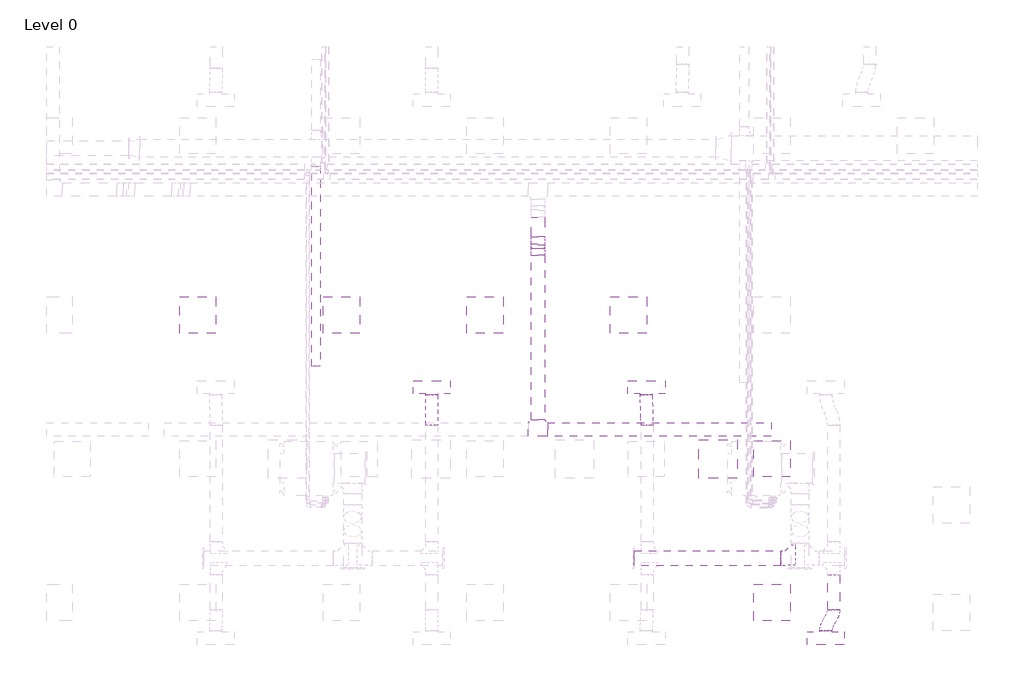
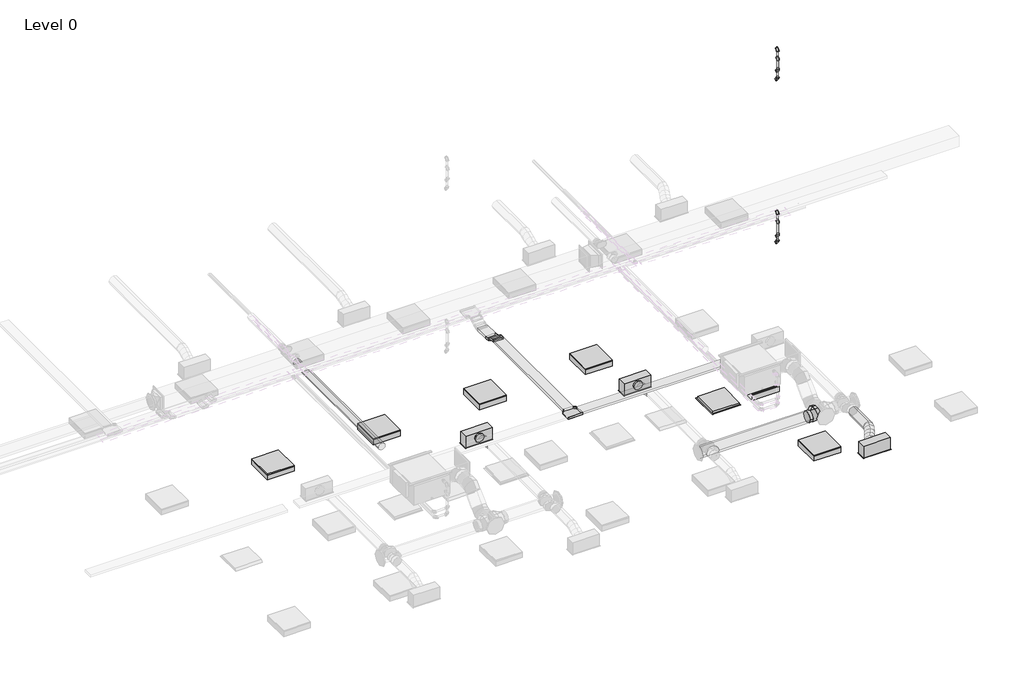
# One storey, part 10 of 34: 8 pipe fittings, 6 duct segments, 6 light fixtures, 4 air terminals, 4 cable carrier segments, 4 pipe segments, 3 cable carrier fittings, 1 duct fitting.
"""IFC4 building model written with IfcOpenShell, lengths in millimetres."""

from ifc_helpers import new_model, si_unit, point, frame, frame_2d, origin, place, context, project, spatial, polyline, circle_curve, ellipse_curve, trimmed, segment, composite_curve, outline, extrude, transform, mapped, element, save
from ifc_brep_helpers import plane_surface, cylinder_surface, advanced_brep
from components import return_grille_rectangular_hosted_standard_7b12617c, supply_diffuser_with_plenum_linear_slot_hosted_8c379eed, cable_tray_horizontal_tee_standard_d76b5e15, cable_tray_vertical_inside_bend_standard_9a66f55b, cable_tray_vertical_outside_bend_standard_4df2047e, dw144_round_shoe_branch_slip_joint1_standard_2_67b64720, troffer_light_2x2_parabolic_2_x2_2_lamp_120v_6a063ff3, elbow_threaded_gmi_standard_b4aa7741

model = new_model("IFC4")

# Units and contexts
model_context = context("Model", 3, world=origin())
ifc_project = project(units=[si_unit("LENGTHUNIT", "METRE", prefix="MILLI")], contexts=[model_context])

# Site, building, storey
site = spatial("IfcSite", under=ifc_project)
building = spatial("IfcBuilding", under=site)
storey = spatial("IfcBuildingStorey", under=building, Name="Level 0", Elevation=0.0)

# Air terminals
placement = place(None, origin())
return_grille_rectangular_hosted_standard_shape = return_grille_rectangular_hosted_standard_7b12617c(model_context)
element("IfcAirTerminal", 1, ObjectType="Return Grille - Rectangular - Hosted : Standard", at=placement, inside=storey, context=model_context, shape_type="MappedRepresentation", body=[
    mapped(return_grille_rectangular_hosted_standard_shape, transform((24762.2000027, 3963.2000004, 2800.0), x_axis=(1.0, 0.0, 0.0), y_axis=(0.0, -1.0, 0.0), z_axis=(0.0, 0.0, -1.0))),
])
supply_diffuser_with_plenum_linear_slot_hosted_shape = supply_diffuser_with_plenum_linear_slot_hosted_8c379eed(model_context)
element("IfcAirTerminal", 2, ObjectType="Supply Diffuser with Plenum - Linear Slot - Hosted : 24\" x 8\"-200 In Inlet  4-Slot", at=placement, inside=storey, context=model_context, shape_type="MappedRepresentation", body=[
    mapped(supply_diffuser_with_plenum_linear_slot_hosted_shape, transform((26562.2000027, 963.2000004, 2800.0), x_axis=(1.0, 0.0, 0.0), y_axis=(0.0, -1.0, 0.0), z_axis=(0.0, 0.0, -1.0))),
])
element("IfcAirTerminal", 3, ObjectType="Supply Diffuser with Plenum - Linear Slot - Hosted : 24\" x 8\"-200 In Inlet  4-Slot", at=placement, inside=storey, context=model_context, shape_type="MappedRepresentation", body=[
    mapped(supply_diffuser_with_plenum_linear_slot_hosted_shape, transform((19973.9000022, 5163.2000004, 2800.0), x_axis=(-1.0, 0.0, 0.0), y_axis=(0.0, 1.0, 0.0), z_axis=(0.0, 0.0, -1.0))),
])
element("IfcAirTerminal", 4, ObjectType="Supply Diffuser with Plenum - Linear Slot - Hosted : 24\" x 8\"-200 In Inlet  4-Slot", at=placement, inside=storey, context=model_context, shape_type="MappedRepresentation", body=[
    mapped(supply_diffuser_with_plenum_linear_slot_hosted_shape, transform((23562.2000027, 5163.2000004, 2800.0), x_axis=(-1.0, 0.0, 0.0), y_axis=(0.0, 1.0, 0.0), z_axis=(0.0, 0.0, -1.0))),
])

# Cable carrier fittings
cable_tray_horizontal_tee_standard_shape = cable_tray_horizontal_tee_standard_d76b5e15(model_context)
element("IfcCableCarrierFitting", 5, ObjectType="Cable Tray Horizontal Tee : Standard", at=placement, inside=storey, context=model_context, shape_type="MappedRepresentation", body=[
    mapped(cable_tray_horizontal_tee_standard_shape, transform((21747.5028601, 4459.9103775, 3275.0), x_axis=(-1.0, 0.0, 0.0), y_axis=(0.0, -1.0, 0.0), z_axis=(0.0, 0.0, 1.0))),
])
cable_tray_vertical_inside_bend_standard_shape = cable_tray_vertical_inside_bend_standard_9a66f55b(model_context)
element("IfcCableCarrierFitting", 6, ObjectType="Cable Tray Vertical Inside Bend : Standard", at=placement, inside=storey, context=model_context, shape_type="MappedRepresentation", body=[
    mapped(cable_tray_vertical_inside_bend_standard_shape, transform((21747.5028601, 7610.4627278, 3175.0), x_axis=(0.0, 0.8660254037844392, -0.49999999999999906), y_axis=(0.0, 0.49999999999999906, 0.8660254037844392), z_axis=(1.0, 0.0, 0.0))),
])
cable_tray_vertical_outside_bend_standard_shape = cable_tray_vertical_outside_bend_standard_4df2047e(model_context)
element("IfcCableCarrierFitting", 7, ObjectType="Cable Tray Vertical Outside Bend : Standard", at=placement, inside=storey, context=model_context, shape_type="MappedRepresentation", body=[
    mapped(cable_tray_vertical_outside_bend_standard_shape, transform((21747.5028601, 7437.257647, 3275.0), x_axis=(0.0, -0.8660254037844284, 0.5000000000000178), y_axis=(0.0, -0.5000000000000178, -0.8660254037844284), z_axis=(1.0, 0.0, 0.0))),
])

# Cable carrier segments
element("IfcCableCarrierSegment", 8, ObjectType="Perforated Cable Tray", at=placement, inside=storey, context=model_context, shape_type="SweptSolid", body=[
    extrude(outline(polyline([(21910.0028601, 4347.4103775), (21910.0028601, 4572.4103775), (25647.5028601, 4572.4103775), (25647.5028601, 4347.4103775), (21910.0028601, 4347.4103775)])), frame((0.0, 0.0, 3250.0), z_axis=(0.0, 0.0, 1.0), x_axis=(1.0, 0.0, 0.0)), (0.0, 0.0, 1.0), 50.0),
])
element("IfcCableCarrierSegment", 9, ObjectType="Perforated Cable Tray", at=placement, inside=storey, context=model_context, shape_type="SweptSolid", body=[
    extrude(outline(polyline([(21635.0028601, 7370.2703489), (21860.0028601, 7370.2703489), (21860.0028601, 4622.4103775), (21635.0028601, 4622.4103775), (21635.0028601, 7370.2703489)])), frame((0.0, 0.0, 3250.0), z_axis=(0.0, 0.0, 1.0), x_axis=(1.0, 0.0, 0.0)), (0.0, 0.0, 1.0), 50.0),
])
element("IfcCableCarrierSegment", 10, ObjectType="Perforated Cable Tray", at=placement, inside=storey, context=model_context, shape_type="SweptSolid", body=[
    extrude(outline(polyline([(21635.0028601, 8002.7307005), (21860.0028601, 8002.7307005), (21860.0028601, 7677.4500259), (21635.0028601, 7677.4500259), (21635.0028601, 8002.7307005)])), frame((0.0, 0.0, 3150.0), z_axis=(0.0, 0.0, 1.0), x_axis=(1.0, 0.0, 0.0)), (0.0, 0.0, 1.0), 50.0),
])
element("IfcCableCarrierSegment", 11, ObjectType="Perforated Cable Tray", at=placement, inside=storey, context=model_context, shape_type="SweptSolid", body=[
    extrude(outline(polyline([(0.0, -225.0), (0.0, 0.0), (66.0254038, 0.0), (66.0254038, -225.0), (0.0, -225.0)])), frame((21860.0028601, 7539.9500259, 3186.843014), z_axis=(0.0, 0.5000000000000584, 0.866025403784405), x_axis=(0.0, -0.866025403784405, 0.5000000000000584)), (0.0, 0.0, 1.0), 50.0),
])

# Duct fitting
dw144_round_shoe_branch_slip_joint1_standard_2_shape = dw144_round_shoe_branch_slip_joint1_standard_2_67b64720(model_context)
element("IfcDuctFitting", 12, ObjectType="DW144 Round Shoe Branch - Slip Joint1 : Standard 2", at=placement, inside=storey, context=model_context, shape_type="MappedRepresentation", body=[
    mapped(dw144_round_shoe_branch_slip_joint1_standard_2_shape, transform((25981.4561025, 2306.5018192, 3072.2088531), x_axis=(-1.0, 0.0, 0.0), y_axis=(0.0, -1.0, 0.0), z_axis=(0.0, 0.0, 1.0))),
])

# Duct segments
element("IfcDuctSegment", 13, ObjectType="DW144 Segmented Bend / Shoe Branch", at=placement, inside=storey, context=model_context, shape_type="SweptSolid", body=[
    extrude(outline(composite_curve([segment(trimmed(circle_curve(frame_2d((2306.5018192, 3072.2088531)), 125.0), [point((2431.5018192, 3072.2088531))], [point((2306.5018192, 2947.2088531))], False, "CARTESIAN"), True, "CONTINUOUS"), segment(trimmed(circle_curve(frame_2d((2306.5018192, 3072.2088531)), 125.0), [point((2306.5018192, 2947.2088531))], [point((2181.5018192, 3072.2088531))], False, "CARTESIAN"), True, "CONTINUOUS"), segment(trimmed(circle_curve(frame_2d((2306.5018192, 3072.2088531)), 125.0), [point((2181.5018192, 3072.2088531))], [point((2306.5018192, 3197.2088531))], False, "CARTESIAN"), True, "CONTINUOUS"), segment(trimmed(circle_curve(frame_2d((2306.5018192, 3072.2088531)), 125.0), [point((2306.5018192, 3197.2088531))], [point((2431.5018192, 3072.2088531))], False, "CARTESIAN"), True, "CONTINUOUS")], self_intersect=False)), frame((23361.4561025, 0.0, 0.0), z_axis=(1.0, 0.0, 0.0), x_axis=(0.0, 1.0, 0.0)), (0.0, 0.0, 1.0), 2445.0),
])
element("IfcDuctSegment", 14, ObjectType="DW144 Segmented Bend / Shoe Branch", at=placement, inside=storey, context=model_context, shape_type="SweptSolid", body=[
    extrude(outline(composite_curve([segment(trimmed(circle_curve(frame_2d((3072.2088531, 26693.9000022)), 100.0), [point((3072.2088531, 26593.9000022))], [point((2972.2088531, 26693.9000022))], False, "CARTESIAN"), True, "CONTINUOUS"), segment(trimmed(circle_curve(frame_2d((3072.2088531, 26693.9000022)), 100.0), [point((2972.2088531, 26693.9000022))], [point((3072.2088531, 26793.9000022))], False, "CARTESIAN"), True, "CONTINUOUS"), segment(trimmed(circle_curve(frame_2d((3072.2088531, 26693.9000022)), 100.0), [point((3072.2088531, 26793.9000022))], [point((3172.2088531, 26693.9000022))], False, "CARTESIAN"), True, "CONTINUOUS"), segment(trimmed(circle_curve(frame_2d((3072.2088531, 26693.9000022)), 100.0), [point((3172.2088531, 26693.9000022))], [point((3072.2088531, 26593.9000022))], False, "CARTESIAN"), True, "CONTINUOUS")], self_intersect=False)), frame((0.0, 1441.5018192, 0.0), z_axis=(0.0, 1.0, 0.0), x_axis=(0.0, 0.0, 1.0)), (0.0, 0.0, 1.0), 590.0),
])
element("IfcDuctSegment", 15, ObjectType="DW144 Segmented Bend / Shoe Branch", at=placement, inside=storey, context=model_context, shape_type="SweptSolid", body=[
    extrude(outline(composite_curve([segment(trimmed(circle_curve(frame_2d((3135.0, 18039.0080407)), 75.0), [point((3135.0, 17964.0080407))], [point((3060.0, 18039.0080407))], False, "CARTESIAN"), True, "CONTINUOUS"), segment(trimmed(circle_curve(frame_2d((3135.0, 18039.0080407)), 75.0), [point((3060.0, 18039.0080407))], [point((3135.0, 18114.0080407))], False, "CARTESIAN"), True, "CONTINUOUS"), segment(trimmed(circle_curve(frame_2d((3135.0, 18039.0080407)), 75.0), [point((3135.0, 18114.0080407))], [point((3210.0, 18039.0080407))], False, "CARTESIAN"), True, "CONTINUOUS"), segment(trimmed(circle_curve(frame_2d((3135.0, 18039.0080407)), 75.0), [point((3210.0, 18039.0080407))], [point((3135.0, 17964.0080407))], False, "CARTESIAN"), True, "CONTINUOUS")], self_intersect=False)), frame((0.0, 5510.2561435, 0.0), z_axis=(0.0, 1.0, 0.0), x_axis=(0.0, 0.0, 1.0)), (0.0, 0.0, 1.0), 3349.1601689),
])
element("IfcDuctSegment", 16, ObjectType="Flex - Round", at=placement, inside=storey, context=model_context, shape_type="AdvancedBrep", body=[
    advanced_brep(
    [(19873.9000022, 4531.5018192, 3072.2088531), (19973.9000022, 4531.5018192, 2972.2088531), (20073.9000022, 4531.5018192, 3072.2088531), (19973.9000022, 4531.5018192, 3172.2088531), (19873.9000022, 4545.8487649, 3072.2088531), (19973.9000022, 4537.7308336, 2972.2088531), (20073.9000022, 4545.8487649, 3072.2088531), (19973.9000022, 4553.9666963, 3172.2088531), (19873.9000022, 5034.3000004, 2954.4), (19973.9000022, 5034.3000004, 3054.4), (20073.9000022, 5034.3000004, 2954.4), (19973.9000022, 5034.3000004, 2854.4), (19873.9000022, 4658.4779853, 3053.8012198), (19973.9000022, 4634.8007072, 2956.3441723), (20073.9000022, 4658.4779853, 3053.8012198), (19973.9000022, 4682.1552634, 3151.2582674), (19873.9000022, 4782.9009098, 3013.3044266), (19973.9000022, 4751.9512855, 2918.21436), (20073.9000022, 4782.9009098, 3013.3044266), (19973.9000022, 4813.8505341, 3108.3944931), (19873.9000022, 4907.3238344, 2972.8076333), (19973.9000022, 4883.6465563, 2875.3505857), (20073.9000022, 4907.3238344, 2972.8076333), (19973.9000022, 4931.0011125, 3070.2646809), (19873.9000022, 5019.9530547, 2954.4), (19973.9000022, 5011.8351234, 2854.4), (20073.9000022, 5019.9530547, 2954.4), (19973.9000022, 5028.070986, 3054.4)],
    [
        (0, 1, circle_curve(frame((19973.9000022, 4531.5018192, 3072.2088531), z_axis=(0.0, -1.0, 0.0), x_axis=(-1.0, 0.0, 0.0)), 100.0)),
        (1, 2, circle_curve(frame((19973.9000022, 4531.5018192, 3072.2088531), z_axis=(0.0, -1.0, 0.0), x_axis=(-1.0, 0.0, 0.0)), 100.0)),
        (2, 3, circle_curve(frame((19973.9000022, 4531.5018192, 3072.2088531), z_axis=(0.0, -1.0, 0.0), x_axis=(-1.0, 0.0, 0.0)), 100.0)),
        (3, 0, circle_curve(frame((19973.9000022, 4531.5018192, 3072.2088531), z_axis=(0.0, -1.0, 0.0), x_axis=(-1.0, 0.0, 0.0)), 100.0)),
        (0, 4),
        (4, 5, ellipse_curve(frame((19973.9000022, 4545.8487649, 3072.2088531), z_axis=(0.0, -0.9967211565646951, 0.08091313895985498), x_axis=(0.0, -0.08091313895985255, -0.9967211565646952)), 100.328963, 100.0)),
        (5, 1),
        (5, 6, ellipse_curve(frame((19973.9000022, 4545.8487649, 3072.2088531), z_axis=(0.0, -0.9967211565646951, 0.08091313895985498), x_axis=(0.0, -0.08091313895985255, -0.9967211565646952)), 100.328963, 100.0)),
        (6, 2),
        (6, 7, ellipse_curve(frame((19973.9000022, 4545.8487649, 3072.2088531), z_axis=(0.0, -0.9967211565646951, 0.08091313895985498), x_axis=(0.0, -0.08091313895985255, -0.9967211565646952)), 100.328963, 100.0)),
        (7, 3),
        (7, 4, ellipse_curve(frame((19973.9000022, 4545.8487649, 3072.2088531), z_axis=(0.0, -0.9967211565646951, 0.08091313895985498), x_axis=(0.0, -0.08091313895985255, -0.9967211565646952)), 100.328963, 100.0)),
        (8, 9, circle_curve(frame((19973.9000022, 5034.3000004, 2954.4), z_axis=(0.0, 1.0, 0.0), x_axis=(-1.0, 0.0, 0.0)), 100.0)),
        (9, 10, circle_curve(frame((19973.9000022, 5034.3000004, 2954.4), z_axis=(0.0, 1.0, 0.0), x_axis=(-1.0, 0.0, 0.0)), 100.0)),
        (10, 11, circle_curve(frame((19973.9000022, 5034.3000004, 2954.4), z_axis=(0.0, 1.0, 0.0), x_axis=(-1.0, 0.0, 0.0)), 100.0)),
        (11, 8, circle_curve(frame((19973.9000022, 5034.3000004, 2954.4), z_axis=(0.0, 1.0, 0.0), x_axis=(-1.0, 0.0, 0.0)), 100.0)),
        (4, 12),
        (12, 13, ellipse_curve(frame((19973.9000022, 4658.4779853, 3053.8012198), z_axis=(0.0, -0.9717328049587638, 0.23608336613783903), x_axis=(0.0, -0.23608336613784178, -0.9717328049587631)), 100.2920217, 100.0)),
        (13, 5),
        (13, 14, ellipse_curve(frame((19973.9000022, 4658.4779853, 3053.8012198), z_axis=(0.0, -0.9717328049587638, 0.23608336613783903), x_axis=(0.0, -0.23608336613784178, -0.9717328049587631)), 100.2920217, 100.0)),
        (14, 6),
        (14, 15, ellipse_curve(frame((19973.9000022, 4658.4779853, 3053.8012198), z_axis=(0.0, -0.9717328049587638, 0.23608336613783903), x_axis=(0.0, -0.23608336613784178, -0.9717328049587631)), 100.2920217, 100.0)),
        (15, 7),
        (15, 12, ellipse_curve(frame((19973.9000022, 4658.4779853, 3053.8012198), z_axis=(0.0, -0.9717328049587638, 0.23608336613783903), x_axis=(0.0, -0.23608336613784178, -0.9717328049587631)), 100.2920217, 100.0)),
        (12, 16),
        (16, 17, circle_curve(frame((19973.9000022, 4782.9009098, 3013.3044266), z_axis=(0.0, -0.9509006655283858, 0.3094962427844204), x_axis=(-1.0, 0.0, 0.0)), 100.0)),
        (17, 13),
        (17, 18, circle_curve(frame((19973.9000022, 4782.9009098, 3013.3044266), z_axis=(0.0, -0.9509006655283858, 0.3094962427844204), x_axis=(-1.0, 0.0, 0.0)), 100.0)),
        (18, 14),
        (18, 19, circle_curve(frame((19973.9000022, 4782.9009098, 3013.3044266), z_axis=(0.0, -0.9509006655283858, 0.3094962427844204), x_axis=(-1.0, 0.0, 0.0)), 100.0)),
        (19, 15),
        (19, 16, circle_curve(frame((19973.9000022, 4782.9009098, 3013.3044266), z_axis=(0.0, -0.9509006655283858, 0.3094962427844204), x_axis=(-1.0, 0.0, 0.0)), 100.0)),
        (16, 20),
        (20, 21, ellipse_curve(frame((19973.9000022, 4907.3238344, 2972.8076333), z_axis=(0.0, -0.9717328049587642, 0.236083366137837), x_axis=(0.0, 0.23608336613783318, 0.9717328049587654)), 100.2920217, 100.0)),
        (21, 17),
        (21, 22, ellipse_curve(frame((19973.9000022, 4907.3238344, 2972.8076333), z_axis=(0.0, -0.9717328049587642, 0.236083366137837), x_axis=(0.0, 0.23608336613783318, 0.9717328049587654)), 100.2920217, 100.0)),
        (22, 18),
        (22, 23, ellipse_curve(frame((19973.9000022, 4907.3238344, 2972.8076333), z_axis=(0.0, -0.9717328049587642, 0.236083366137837), x_axis=(0.0, 0.23608336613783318, 0.9717328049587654)), 100.2920217, 100.0)),
        (23, 19),
        (23, 20, ellipse_curve(frame((19973.9000022, 4907.3238344, 2972.8076333), z_axis=(0.0, -0.9717328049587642, 0.236083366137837), x_axis=(0.0, 0.23608336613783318, 0.9717328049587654)), 100.2920217, 100.0)),
        (20, 24),
        (24, 25, ellipse_curve(frame((19973.9000022, 5019.9530547, 2954.4), z_axis=(0.0, -0.9967211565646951, 0.08091313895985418), x_axis=(0.0, 0.08091313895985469, 0.9967211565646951)), 100.328963, 100.0)),
        (25, 21),
        (25, 26, ellipse_curve(frame((19973.9000022, 5019.9530547, 2954.4), z_axis=(0.0, -0.9967211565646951, 0.08091313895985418), x_axis=(0.0, 0.08091313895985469, 0.9967211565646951)), 100.328963, 100.0)),
        (26, 22),
        (26, 27, ellipse_curve(frame((19973.9000022, 5019.9530547, 2954.4), z_axis=(0.0, -0.9967211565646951, 0.08091313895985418), x_axis=(0.0, 0.08091313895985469, 0.9967211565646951)), 100.328963, 100.0)),
        (27, 23),
        (27, 24, ellipse_curve(frame((19973.9000022, 5019.9530547, 2954.4), z_axis=(0.0, -0.9967211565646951, 0.08091313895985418), x_axis=(0.0, 0.08091313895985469, 0.9967211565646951)), 100.328963, 100.0)),
        (24, 8),
        (11, 25),
        (10, 26),
        (9, 27),
    ],
    [
        plane_surface(frame((19873.9000022, 4531.5018192, 3072.2088531), z_axis=(0.0, -1.0, 0.0), x_axis=(0.0, 0.0, 1.0))),
        cylinder_surface(frame((19973.9000022, 4531.5018192, 3072.2088531), z_axis=(0.0, -1.0, 0.0), x_axis=(-1.0, 0.0, 0.0)), 100.0),
        plane_surface(frame((19873.9000022, 5034.3000004, 2954.4), z_axis=(0.0, 1.0, 0.0), x_axis=(0.0, 0.0, 1.0))),
        cylinder_surface(frame((19973.9000022, 4545.8487649, 3072.2088531), z_axis=(0.0, -0.9869061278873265, 0.16129567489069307), x_axis=(-1.0, 0.0, 0.0)), 100.0),
        cylinder_surface(frame((19973.9000022, 4658.4779853, 3053.8012198), z_axis=(0.0, -0.9509006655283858, 0.3094962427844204), x_axis=(-1.0, 0.0, 0.0)), 100.0),
        cylinder_surface(frame((19973.9000022, 4782.9009098, 3013.3044266), z_axis=(0.0, -0.9509006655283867, 0.30949624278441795), x_axis=(-1.0, 0.0, 0.0)), 100.0),
        cylinder_surface(frame((19973.9000022, 4907.3238344, 2972.8076333), z_axis=(0.0, -0.9869061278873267, 0.16129567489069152), x_axis=(-1.0, 0.0, 0.0)), 100.0),
        cylinder_surface(frame((19973.9000022, 5019.9530547, 2954.4), z_axis=(0.0, -1.0, 0.0), x_axis=(-1.0, 0.0, 0.0)), 100.0),
    ],
    [
        (0, [[1, 2, 3, 4]]),
        (1, [[-1, 5, 6, 7]]),
        (1, [[-2, -7, 8, 9]]),
        (1, [[-3, -9, 10, 11]]),
        (1, [[-4, -11, 12, -5]]),
        (2, [[13, 14, 15, 16]]),
        (3, [[-6, 17, 18, 19]]),
        (3, [[-8, -19, 20, 21]]),
        (3, [[-10, -21, 22, 23]]),
        (3, [[-12, -23, 24, -17]]),
        (4, [[-18, 25, 26, 27]]),
        (4, [[-20, -27, 28, 29]]),
        (4, [[-22, -29, 30, 31]]),
        (4, [[-24, -31, 32, -25]]),
        (5, [[-26, 33, 34, 35]]),
        (5, [[-28, -35, 36, 37]]),
        (5, [[-30, -37, 38, 39]]),
        (5, [[-32, -39, 40, -33]]),
        (6, [[-34, 41, 42, 43]]),
        (6, [[-36, -43, 44, 45]]),
        (6, [[-38, -45, 46, 47]]),
        (6, [[-40, -47, 48, -41]]),
        (7, [[-42, 49, -16, 50]]),
        (7, [[-44, -50, -15, 51]]),
        (7, [[-46, -51, -14, 52]]),
        (7, [[-48, -52, -13, -49]]),
    ],
),
])
element("IfcDuctSegment", 17, ObjectType="Flex - Round", at=placement, inside=storey, context=model_context, shape_type="AdvancedBrep", body=[
    advanced_brep(
    [(23473.9000022, 4531.5018192, 3072.2088531), (23573.9000022, 4531.5018192, 2972.2088531), (23673.9000022, 4531.5018192, 3072.2088531), (23573.9000022, 4531.5018192, 3172.2088531), (23473.9000022, 4545.0398748, 3072.2088531), (23573.9000022, 4537.729612, 2972.2088531), (23673.9000022, 4546.6519942, 3072.2088531), (23573.9000022, 4553.962257, 3172.2088531), (23462.2000027, 5034.3000004, 2954.4), (23562.2000027, 5034.3000004, 3054.4), (23662.2000027, 5034.3000004, 2954.4), (23562.2000027, 5034.3000004, 2854.4), (23472.0969471, 4656.1396088, 3054.0536514), (23572.3243089, 4634.8198875, 2956.3429867), (23672.0468075, 4660.8412095, 3053.5487883), (23571.8194457, 4682.1609309, 3151.2594529), (23468.0984043, 4779.8283707, 3013.7917909), (23568.5373668, 4751.9631047, 2918.2117629), (23668.0016006, 4785.9734489, 3012.8170622), (23567.5626381, 4813.8387149, 3108.3970903), (23464.0531974, 4904.9606101, 2973.0600649), (23564.2805591, 4883.6408888, 2875.3494002), (23664.0030578, 4909.6622108, 2972.5552017), (23563.775696, 4930.9819322, 3070.2658664), (23462.2000027, 5019.1498254, 2954.4), (23562.2000027, 5011.8395627, 2854.4), (23662.2000027, 5020.7619448, 2954.4), (23562.2000027, 5028.0722076, 3054.4)],
    [
        (0, 1, circle_curve(frame((23573.9000022, 4531.5018192, 3072.2088531), z_axis=(0.0, -1.0, 0.0), x_axis=(-1.0, 0.0, 0.0)), 100.0)),
        (1, 2, circle_curve(frame((23573.9000022, 4531.5018192, 3072.2088531), z_axis=(0.0, -1.0, 0.0), x_axis=(-1.0, 0.0, 0.0)), 100.0)),
        (2, 3, circle_curve(frame((23573.9000022, 4531.5018192, 3072.2088531), z_axis=(0.0, -1.0, 0.0), x_axis=(-1.0, 0.0, 0.0)), 100.0)),
        (3, 0, circle_curve(frame((23573.9000022, 4531.5018192, 3072.2088531), z_axis=(0.0, -1.0, 0.0), x_axis=(-1.0, 0.0, 0.0)), 100.0)),
        (0, 4),
        (4, 5, ellipse_curve(frame((23573.9000022, 4545.8459345, 3072.2088531), z_axis=(0.008033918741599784, -0.996690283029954, 0.08089459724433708), x_axis=(-0.09850014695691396, -0.08129255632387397, -0.9918110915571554)), 100.3320708, 100.0)),
        (5, 1),
        (5, 6, ellipse_curve(frame((23573.9000022, 4545.8459345, 3072.2088531), z_axis=(0.008033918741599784, -0.996690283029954, 0.08089459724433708), x_axis=(-0.09850014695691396, -0.08129255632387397, -0.9918110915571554)), 100.3320708, 100.0)),
        (6, 2),
        (6, 7, ellipse_curve(frame((23573.9000022, 4545.8459345, 3072.2088531), z_axis=(0.008033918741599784, -0.996690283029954, 0.08089459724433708), x_axis=(-0.09850014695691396, -0.08129255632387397, -0.9918110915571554)), 100.3320708, 100.0)),
        (7, 3),
        (7, 4, ellipse_curve(frame((23573.9000022, 4545.8459345, 3072.2088531), z_axis=(0.008033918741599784, -0.996690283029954, 0.08089459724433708), x_axis=(-0.09850014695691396, -0.08129255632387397, -0.9918110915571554)), 100.3320708, 100.0)),
        (8, 9, circle_curve(frame((23562.2000027, 5034.3000004, 2954.4), z_axis=(0.0, 1.0, 0.0), x_axis=(-1.0, 0.0, 0.0)), 100.0)),
        (9, 10, circle_curve(frame((23562.2000027, 5034.3000004, 2954.4), z_axis=(0.0, 1.0, 0.0), x_axis=(-1.0, 0.0, 0.0)), 100.0)),
        (10, 11, circle_curve(frame((23562.2000027, 5034.3000004, 2954.4), z_axis=(0.0, 1.0, 0.0), x_axis=(-1.0, 0.0, 0.0)), 100.0)),
        (11, 8, circle_curve(frame((23562.2000027, 5034.3000004, 2954.4), z_axis=(0.0, 1.0, 0.0), x_axis=(-1.0, 0.0, 0.0)), 100.0)),
        (4, 12),
        (12, 13, ellipse_curve(frame((23572.0718773, 4658.4904092, 3053.8012198), z_axis=(0.023438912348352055, -0.9714680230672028, 0.23600952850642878), x_axis=(-0.09600750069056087, -0.23717057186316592, -0.9667123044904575)), 100.2947714, 100.0)),
        (13, 5),
        (13, 14, ellipse_curve(frame((23572.0718773, 4658.4904092, 3053.8012198), z_axis=(0.023438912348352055, -0.9714680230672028, 0.23600952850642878), x_axis=(-0.09600750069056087, -0.23717057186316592, -0.9667123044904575)), 100.2947714, 100.0)),
        (14, 6),
        (14, 15, ellipse_curve(frame((23572.0718773, 4658.4904092, 3053.8012198), z_axis=(0.023438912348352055, -0.9714680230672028, 0.23600952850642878), x_axis=(-0.09600750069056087, -0.23717057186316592, -0.9667123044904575)), 100.2947714, 100.0)),
        (15, 7),
        (15, 12, ellipse_curve(frame((23572.0718773, 4658.4904092, 3053.8012198), z_axis=(0.023438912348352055, -0.9714680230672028, 0.23600952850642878), x_axis=(-0.09600750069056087, -0.23717057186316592, -0.9667123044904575)), 100.2947714, 100.0)),
        (12, 16),
        (16, 17, circle_curve(frame((23568.0500024, 4782.9009098, 3013.3044266), z_axis=(0.03072539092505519, -0.9504426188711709, 0.3093780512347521), x_axis=(-0.999515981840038, -0.030725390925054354, 0.004873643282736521)), 100.0)),
        (17, 13),
        (17, 18, circle_curve(frame((23568.0500024, 4782.9009098, 3013.3044266), z_axis=(0.03072539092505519, -0.9504426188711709, 0.3093780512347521), x_axis=(-0.999515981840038, -0.030725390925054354, 0.004873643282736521)), 100.0)),
        (18, 14),
        (18, 19, circle_curve(frame((23568.0500024, 4782.9009098, 3013.3044266), z_axis=(0.03072539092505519, -0.9504426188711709, 0.3093780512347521), x_axis=(-0.999515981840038, -0.030725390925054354, 0.004873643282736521)), 100.0)),
        (19, 15),
        (19, 16, circle_curve(frame((23568.0500024, 4782.9009098, 3013.3044266), z_axis=(0.03072539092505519, -0.9504426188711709, 0.3093780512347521), x_axis=(-0.999515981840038, -0.030725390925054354, 0.004873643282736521)), 100.0)),
        (16, 20),
        (20, 21, ellipse_curve(frame((23564.0281276, 4907.3114105, 2972.8076333), z_axis=(0.023438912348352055, -0.9714680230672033, 0.23600952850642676), x_axis=(0.0960075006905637, 0.23717057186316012, 0.9667123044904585)), 100.2947714, 100.0)),
        (21, 17),
        (21, 22, ellipse_curve(frame((23564.0281276, 4907.3114105, 2972.8076333), z_axis=(0.023438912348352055, -0.9714680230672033, 0.23600952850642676), x_axis=(0.0960075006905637, 0.23717057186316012, 0.9667123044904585)), 100.2947714, 100.0)),
        (22, 18),
        (22, 23, ellipse_curve(frame((23564.0281276, 4907.3114105, 2972.8076333), z_axis=(0.023438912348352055, -0.9714680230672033, 0.23600952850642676), x_axis=(0.0960075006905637, 0.23717057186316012, 0.9667123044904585)), 100.2947714, 100.0)),
        (23, 19),
        (23, 20, ellipse_curve(frame((23564.0281276, 4907.3114105, 2972.8076333), z_axis=(0.023438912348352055, -0.9714680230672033, 0.23600952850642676), x_axis=(0.0960075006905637, 0.23717057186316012, 0.9667123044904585)), 100.2947714, 100.0)),
        (20, 24),
        (24, 25, ellipse_curve(frame((23562.2000027, 5019.9558851, 2954.4), z_axis=(0.008033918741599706, -0.9966902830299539, 0.08089459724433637), x_axis=(0.09850014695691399, 0.0812925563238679, 0.9918110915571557)), 100.3320708, 100.0)),
        (25, 21),
        (25, 26, ellipse_curve(frame((23562.2000027, 5019.9558851, 2954.4), z_axis=(0.008033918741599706, -0.9966902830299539, 0.08089459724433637), x_axis=(0.09850014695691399, 0.0812925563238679, 0.9918110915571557)), 100.3320708, 100.0)),
        (26, 22),
        (26, 27, ellipse_curve(frame((23562.2000027, 5019.9558851, 2954.4), z_axis=(0.008033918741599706, -0.9966902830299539, 0.08089459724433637), x_axis=(0.09850014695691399, 0.0812925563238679, 0.9918110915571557)), 100.3320708, 100.0)),
        (27, 23),
        (27, 24, ellipse_curve(frame((23562.2000027, 5019.9558851, 2954.4), z_axis=(0.008033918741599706, -0.9966902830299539, 0.08089459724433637), x_axis=(0.09850014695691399, 0.0812925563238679, 0.9918110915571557)), 100.3320708, 100.0)),
        (24, 8),
        (11, 25),
        (10, 26),
        (9, 27),
    ],
    [
        plane_surface(frame((23473.9000022, 4531.5018192, 3072.2088531), z_axis=(0.0, -1.0, 0.0), x_axis=(0.0, 0.0, 1.0))),
        cylinder_surface(frame((23573.9000022, 4531.5018192, 3072.2088531), z_axis=(0.0, -1.0, 0.0), x_axis=(-1.0, 0.0, 0.0)), 100.0),
        plane_surface(frame((23462.2000027, 5034.3000004, 2954.4), z_axis=(0.0, 1.0, 0.0), x_axis=(0.0, 0.0, 1.0))),
        cylinder_surface(frame((23573.9000022, 4545.8459345, 3072.2088531), z_axis=(0.016014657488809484, -0.9867830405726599, 0.16125371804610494), x_axis=(-0.9998709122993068, -0.01601465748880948, 0.0012998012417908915)), 100.0),
        cylinder_surface(frame((23572.0718773, 4658.4904092, 3053.8012198), z_axis=(0.03072539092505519, -0.9504426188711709, 0.3093780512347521), x_axis=(-0.999515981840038, -0.030725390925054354, 0.004873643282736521)), 100.0),
        cylinder_surface(frame((23568.0500024, 4782.9009098, 3013.3044266), z_axis=(0.030725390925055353, -0.9504426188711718, 0.30937805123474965), x_axis=(-0.9995159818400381, -0.030725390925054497, 0.004873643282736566)), 100.0),
        cylinder_surface(frame((23564.0281276, 4907.3114105, 2972.8076333), z_axis=(0.016014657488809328, -0.9867830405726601, 0.16125371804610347), x_axis=(-0.9998709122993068, -0.016014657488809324, 0.001299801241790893)), 100.0),
        cylinder_surface(frame((23562.2000027, 5019.9558851, 2954.4), z_axis=(0.0, -1.0, 0.0), x_axis=(-1.0, 0.0, 0.0)), 100.0),
    ],
    [
        (0, [[1, 2, 3, 4]]),
        (1, [[-1, 5, 6, 7]]),
        (1, [[-2, -7, 8, 9]]),
        (1, [[-3, -9, 10, 11]]),
        (1, [[-4, -11, 12, -5]]),
        (2, [[13, 14, 15, 16]]),
        (3, [[-6, 17, 18, 19]]),
        (3, [[-8, -19, 20, 21]]),
        (3, [[-10, -21, 22, 23]]),
        (3, [[-12, -23, 24, -17]]),
        (4, [[-18, 25, 26, 27]]),
        (4, [[-20, -27, 28, 29]]),
        (4, [[-22, -29, 30, 31]]),
        (4, [[-24, -31, 32, -25]]),
        (5, [[-26, 33, 34, 35]]),
        (5, [[-28, -35, 36, 37]]),
        (5, [[-30, -37, 38, 39]]),
        (5, [[-32, -39, 40, -33]]),
        (6, [[-34, 41, 42, 43]]),
        (6, [[-36, -43, 44, 45]]),
        (6, [[-38, -45, 46, 47]]),
        (6, [[-40, -47, 48, -41]]),
        (7, [[-42, 49, -16, 50]]),
        (7, [[-44, -50, -15, 51]]),
        (7, [[-46, -51, -14, 52]]),
        (7, [[-48, -52, -13, -49]]),
    ],
),
])
element("IfcDuctSegment", 18, ObjectType="Flex - Round", at=placement, inside=storey, context=model_context, shape_type="AdvancedBrep", body=[
    advanced_brep(
    [(26793.9000022, 1441.5018192, 3072.2088531), (26693.9000022, 1441.5018192, 2972.2088531), (26593.9000022, 1441.5018192, 3072.2088531), (26693.9000022, 1441.5018192, 3172.2088531), (26793.9000022, 1411.0283897, 3072.2088531), (26693.9000022, 1433.807278, 2972.2088531), (26593.9000022, 1435.075469, 3072.2088531), (26693.9000022, 1412.2965807, 3172.2088531), (26662.2000027, 1092.1000004, 2954.4), (26562.2000027, 1092.1000004, 3054.4), (26462.2000027, 1092.1000004, 2954.4), (26562.2000027, 1092.1000004, 2854.4), (26775.1589384, 1335.1217049, 3055.4445157), (26684.715419, 1396.607081, 2963.99302), (26585.2474661, 1400.0302155, 3064.4689491), (26675.6909856, 1338.5448394, 3155.9204448), (26737.1794843, 1256.2157349, 3021.4709701), (26656.8107691, 1338.6324861, 2939.0316319), (26557.9037205, 1343.2209532, 3040.0093035), (26638.2724357, 1260.804202, 3122.4486418), (26698.1962844, 1190.3808664, 2986.5995496), (26617.8275692, 1272.7976176, 2904.1602114), (26518.9205206, 1277.3860847, 3005.137883), (26599.2892358, 1194.9693335, 3087.5772212), (26670.8525388, 1133.5716042, 2962.139904), (26580.4090193, 1195.0569803, 2870.6884083), (26480.9410665, 1198.4801148, 2971.1643374), (26571.3845859, 1136.9947387, 3062.6158331), (26662.2000027, 1098.5263507, 2954.4), (26562.2000027, 1121.305239, 2854.4), (26462.2000027, 1122.5734299, 2954.4), (26562.2000027, 1099.7945416, 3054.4)],
    [
        (0, 1, circle_curve(frame((26693.9000022, 1441.5018192, 3072.2088531), z_axis=(0.0, 1.0, 0.0), x_axis=(1.0, 0.0, 0.0)), 100.0)),
        (1, 2, circle_curve(frame((26693.9000022, 1441.5018192, 3072.2088531), z_axis=(0.0, 1.0, 0.0), x_axis=(1.0, 0.0, 0.0)), 100.0)),
        (2, 3, circle_curve(frame((26693.9000022, 1441.5018192, 3072.2088531), z_axis=(0.0, 1.0, 0.0), x_axis=(1.0, 0.0, 0.0)), 100.0)),
        (3, 0, circle_curve(frame((26693.9000022, 1441.5018192, 3072.2088531), z_axis=(0.0, 1.0, 0.0), x_axis=(1.0, 0.0, 0.0)), 100.0)),
        (0, 4),
        (4, 5, ellipse_curve(frame((26693.9000022, 1423.0519293, 3072.2088531), z_axis=(0.1187007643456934, 0.9872364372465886, 0.10618072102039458), x_axis=(-0.7358070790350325, 0.15926147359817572, -0.6581973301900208)), 101.2928577, 100.0)),
        (5, 1),
        (5, 6, ellipse_curve(frame((26693.9000022, 1423.0519293, 3072.2088531), z_axis=(0.1187007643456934, 0.9872364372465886, 0.10618072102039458), x_axis=(-0.7358070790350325, 0.15926147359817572, -0.6581973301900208)), 101.2928577, 100.0)),
        (6, 2),
        (6, 7, ellipse_curve(frame((26693.9000022, 1423.0519293, 3072.2088531), z_axis=(0.1187007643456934, 0.9872364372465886, 0.10618072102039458), x_axis=(-0.7358070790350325, 0.15926147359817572, -0.6581973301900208)), 101.2928577, 100.0)),
        (7, 3),
        (7, 4, ellipse_curve(frame((26693.9000022, 1423.0519293, 3072.2088531), z_axis=(0.1187007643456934, 0.9872364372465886, 0.10618072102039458), x_axis=(-0.7358070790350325, 0.15926147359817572, -0.6581973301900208)), 101.2928577, 100.0)),
        (8, 9, circle_curve(frame((26562.2000027, 1092.1000004, 2954.4), z_axis=(0.0, -1.0, 0.0), x_axis=(1.0, 0.0, 0.0)), 100.0)),
        (9, 10, circle_curve(frame((26562.2000027, 1092.1000004, 2954.4), z_axis=(0.0, -1.0, 0.0), x_axis=(1.0, 0.0, 0.0)), 100.0)),
        (10, 11, circle_curve(frame((26562.2000027, 1092.1000004, 2954.4), z_axis=(0.0, -1.0, 0.0), x_axis=(1.0, 0.0, 0.0)), 100.0)),
        (11, 8, circle_curve(frame((26562.2000027, 1092.1000004, 2954.4), z_axis=(0.0, -1.0, 0.0), x_axis=(1.0, 0.0, 0.0)), 100.0)),
        (4, 12),
        (12, 13, ellipse_curve(frame((26680.2032023, 1367.5759602, 3059.9567324), z_axis=(0.3219384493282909, 0.9018991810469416, 0.28798177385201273), x_axis=(-0.6722035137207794, 0.43194660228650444, -0.6013023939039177)), 100.8088825, 100.0)),
        (13, 5),
        (13, 14, ellipse_curve(frame((26680.2032023, 1367.5759602, 3059.9567324), z_axis=(0.3219384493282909, 0.9018991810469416, 0.28798177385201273), x_axis=(-0.6722035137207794, 0.43194660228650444, -0.6013023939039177)), 100.8088825, 100.0)),
        (14, 6),
        (14, 15, ellipse_curve(frame((26680.2032023, 1367.5759602, 3059.9567324), z_axis=(0.3219384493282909, 0.9018991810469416, 0.28798177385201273), x_axis=(-0.6722035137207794, 0.43194660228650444, -0.6013023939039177)), 100.8088825, 100.0)),
        (15, 7),
        (15, 12, ellipse_curve(frame((26680.2032023, 1367.5759602, 3059.9567324), z_axis=(0.3219384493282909, 0.9018991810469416, 0.28798177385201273), x_axis=(-0.6722035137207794, 0.43194660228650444, -0.6013023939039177)), 100.8088825, 100.0)),
        (12, 16),
        (16, 17, ellipse_curve(frame((26647.5416024, 1299.7183441, 3030.7401368), z_axis=(0.43450451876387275, 0.8124885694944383, 0.38867486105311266), x_axis=(-0.6055639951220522, 0.5829771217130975, -0.5416917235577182)), 100.1200385, 100.0)),
        (17, 13),
        (17, 18, ellipse_curve(frame((26647.5416024, 1299.7183441, 3030.7401368), z_axis=(0.43450451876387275, 0.8124885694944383, 0.38867486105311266), x_axis=(-0.6055639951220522, 0.5829771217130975, -0.5416917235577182)), 100.1200385, 100.0)),
        (18, 14),
        (18, 19, ellipse_curve(frame((26647.5416024, 1299.7183441, 3030.7401368), z_axis=(0.43450451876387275, 0.8124885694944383, 0.38867486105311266), x_axis=(-0.6055639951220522, 0.5829771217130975, -0.5416917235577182)), 100.1200385, 100.0)),
        (19, 15),
        (19, 16, ellipse_curve(frame((26647.5416024, 1299.7183441, 3030.7401368), z_axis=(0.43450451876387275, 0.8124885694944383, 0.38867486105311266), x_axis=(-0.6055639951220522, 0.5829771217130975, -0.5416917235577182)), 100.1200385, 100.0)),
        (16, 20),
        (20, 21, ellipse_curve(frame((26608.5584025, 1233.8834756, 2995.8687163), z_axis=(0.4345045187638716, 0.8124885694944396, 0.3886748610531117), x_axis=(0.6055639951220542, -0.5829771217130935, 0.5416917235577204)), 100.1200385, 100.0)),
        (21, 17),
        (21, 22, ellipse_curve(frame((26608.5584025, 1233.8834756, 2995.8687163), z_axis=(0.4345045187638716, 0.8124885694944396, 0.3886748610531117), x_axis=(0.6055639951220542, -0.5829771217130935, 0.5416917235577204)), 100.1200385, 100.0)),
        (22, 18),
        (22, 23, ellipse_curve(frame((26608.5584025, 1233.8834756, 2995.8687163), z_axis=(0.4345045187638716, 0.8124885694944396, 0.3886748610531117), x_axis=(0.6055639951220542, -0.5829771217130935, 0.5416917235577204)), 100.1200385, 100.0)),
        (23, 19),
        (23, 20, ellipse_curve(frame((26608.5584025, 1233.8834756, 2995.8687163), z_axis=(0.4345045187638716, 0.8124885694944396, 0.3886748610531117), x_axis=(0.6055639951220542, -0.5829771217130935, 0.5416917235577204)), 100.1200385, 100.0)),
        (20, 24),
        (24, 25, ellipse_curve(frame((26575.8968026, 1166.0258595, 2966.6521207), z_axis=(0.3219384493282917, 0.9018991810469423, 0.28798177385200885), x_axis=(0.6722035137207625, -0.4319466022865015, 0.6013023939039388)), 100.8088825, 100.0)),
        (25, 21),
        (25, 26, ellipse_curve(frame((26575.8968026, 1166.0258595, 2966.6521207), z_axis=(0.3219384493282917, 0.9018991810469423, 0.28798177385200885), x_axis=(0.6722035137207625, -0.4319466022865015, 0.6013023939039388)), 100.8088825, 100.0)),
        (26, 22),
        (26, 27, ellipse_curve(frame((26575.8968026, 1166.0258595, 2966.6521207), z_axis=(0.3219384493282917, 0.9018991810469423, 0.28798177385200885), x_axis=(0.6722035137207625, -0.4319466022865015, 0.6013023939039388)), 100.8088825, 100.0)),
        (27, 23),
        (27, 24, ellipse_curve(frame((26575.8968026, 1166.0258595, 2966.6521207), z_axis=(0.3219384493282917, 0.9018991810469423, 0.28798177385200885), x_axis=(0.6722035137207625, -0.4319466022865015, 0.6013023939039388)), 100.8088825, 100.0)),
        (24, 28),
        (28, 29, ellipse_curve(frame((26562.2000027, 1110.5498903, 2954.4), z_axis=(0.11870076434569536, 0.9872364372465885, 0.10618072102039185), x_axis=(0.735807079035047, -0.1592614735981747, 0.6581973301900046)), 101.2928577, 100.0)),
        (29, 25),
        (29, 30, ellipse_curve(frame((26562.2000027, 1110.5498903, 2954.4), z_axis=(0.11870076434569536, 0.9872364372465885, 0.10618072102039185), x_axis=(0.735807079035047, -0.1592614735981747, 0.6581973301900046)), 101.2928577, 100.0)),
        (30, 26),
        (30, 31, ellipse_curve(frame((26562.2000027, 1110.5498903, 2954.4), z_axis=(0.11870076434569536, 0.9872364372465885, 0.10618072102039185), x_axis=(0.735807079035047, -0.1592614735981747, 0.6581973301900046)), 101.2928577, 100.0)),
        (31, 27),
        (31, 28, ellipse_curve(frame((26562.2000027, 1110.5498903, 2954.4), z_axis=(0.11870076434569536, 0.9872364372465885, 0.10618072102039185), x_axis=(0.735807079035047, -0.1592614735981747, 0.6581973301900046)), 101.2928577, 100.0)),
        (28, 8),
        (11, 29),
        (10, 30),
        (9, 31),
    ],
    [
        plane_surface(frame((26593.9000022, 1441.5018192, 3072.2088531), z_axis=(0.0, 1.0, 0.0), x_axis=(0.0, 0.0, -1.0))),
        cylinder_surface(frame((26693.9000022, 1441.5018192, 3072.2088531), z_axis=(0.0, 1.0, 0.0), x_axis=(1.0, 0.0, 0.0)), 100.0),
        plane_surface(frame((26462.2000027, 1092.1000004, 2954.4), z_axis=(0.0, -1.0, 0.0), x_axis=(0.0, 0.0, -1.0))),
        cylinder_surface(frame((26693.9000022, 1423.0519293, 3072.2088531), z_axis=(0.23437143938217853, 0.9492715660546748, 0.20965095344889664), x_axis=(0.9718202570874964, -0.2343714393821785, -0.025207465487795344)), 100.0),
        cylinder_surface(frame((26680.2032023, 1367.5759602, 3059.9567324), z_axis=(0.40433904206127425, 0.8400532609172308, 0.3616911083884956), x_axis=(0.9111492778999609, -0.40433904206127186, -0.07947913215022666)), 100.0),
        cylinder_surface(frame((26647.5416024, 1299.7183441, 3030.7401368), z_axis=(0.46362810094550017, 0.7829756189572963, 0.4147266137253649), x_axis=(0.879442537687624, -0.4636281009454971, -0.10784158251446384)), 100.0),
        cylinder_surface(frame((26608.5584025, 1233.8834756, 2995.8687163), z_axis=(0.4043390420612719, 0.8400532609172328, 0.3616911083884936), x_axis=(0.9111492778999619, -0.4043390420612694, -0.07947913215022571)), 100.0),
        cylinder_surface(frame((26575.8968026, 1166.0258595, 2966.6521207), z_axis=(0.23437143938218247, 0.9492715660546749, 0.2096509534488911), x_axis=(0.9718202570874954, -0.23437143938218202, -0.0252074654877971)), 100.0),
        cylinder_surface(frame((26562.2000027, 1110.5498903, 2954.4), z_axis=(0.0, 1.0, 0.0), x_axis=(1.0, 0.0, 0.0)), 100.0),
    ],
    [
        (0, [[1, 2, 3, 4]]),
        (1, [[-1, 5, 6, 7]]),
        (1, [[-2, -7, 8, 9]]),
        (1, [[-3, -9, 10, 11]]),
        (1, [[-4, -11, 12, -5]]),
        (2, [[13, 14, 15, 16]]),
        (3, [[-6, 17, 18, 19]]),
        (3, [[-8, -19, 20, 21]]),
        (3, [[-10, -21, 22, 23]]),
        (3, [[-12, -23, 24, -17]]),
        (4, [[-18, 25, 26, 27]]),
        (4, [[-20, -27, 28, 29]]),
        (4, [[-22, -29, 30, 31]]),
        (4, [[-24, -31, 32, -25]]),
        (5, [[-26, 33, 34, 35]]),
        (5, [[-28, -35, 36, 37]]),
        (5, [[-30, -37, 38, 39]]),
        (5, [[-32, -39, 40, -33]]),
        (6, [[-34, 41, 42, 43]]),
        (6, [[-36, -43, 44, 45]]),
        (6, [[-38, -45, 46, 47]]),
        (6, [[-40, -47, 48, -41]]),
        (7, [[-42, 49, 50, 51]]),
        (7, [[-44, -51, 52, 53]]),
        (7, [[-46, -53, 54, 55]]),
        (7, [[-48, -55, 56, -49]]),
        (8, [[-50, 57, -16, 58]]),
        (8, [[-52, -58, -15, 59]]),
        (8, [[-54, -59, -14, 60]]),
        (8, [[-56, -60, -13, -57]]),
    ],
),
])

# Light fixtures
troffer_light_2x2_parabolic_2_x2_2_lamp_120v_shape = troffer_light_2x2_parabolic_2_x2_2_lamp_120v_6a063ff3(model_context)
element("IfcLightFixture", 19, ObjectType="Troffer Light - 2x2 Parabolic : 2'x2'(2 Lamp) - 120V", at=placement, inside=storey, context=model_context, shape_type="MappedRepresentation", body=[
    mapped(troffer_light_2x2_parabolic_2_x2_2_lamp_120v_shape, transform((25662.2000027, 1263.2000004, 2800.0), x_axis=(1.0, 0.0, 0.0), y_axis=(0.0, -1.0, 0.0), z_axis=(0.0, 0.0, -1.0))),
])
element("IfcLightFixture", 20, ObjectType="Troffer Light - 2x2 Parabolic : 2'x2'(2 Lamp) - 120V", at=placement, inside=storey, context=model_context, shape_type="MappedRepresentation", body=[
    mapped(troffer_light_2x2_parabolic_2_x2_2_lamp_120v_shape, transform((25662.2000027, 3663.2000004, 2800.0), x_axis=(1.0, 0.0, 0.0), y_axis=(0.0, -1.0, 0.0), z_axis=(0.0, 0.0, -1.0))),
])
element("IfcLightFixture", 21, ObjectType="Troffer Light - 2x2 Parabolic : 2'x2'(2 Lamp) - 120V", at=placement, inside=storey, context=model_context, shape_type="MappedRepresentation", body=[
    mapped(troffer_light_2x2_parabolic_2_x2_2_lamp_120v_shape, transform((16062.2000027, 6063.2000004, 2800.0), x_axis=(1.0, 0.0, 0.0), y_axis=(0.0, -1.0, 0.0), z_axis=(0.0, 0.0, -1.0))),
])
element("IfcLightFixture", 22, ObjectType="Troffer Light - 2x2 Parabolic : 2'x2'(2 Lamp) - 120V", at=placement, inside=storey, context=model_context, shape_type="MappedRepresentation", body=[
    mapped(troffer_light_2x2_parabolic_2_x2_2_lamp_120v_shape, transform((18462.2000027, 6063.2000004, 2800.0), x_axis=(1.0, 0.0, 0.0), y_axis=(0.0, -1.0, 0.0), z_axis=(0.0, 0.0, -1.0))),
])
element("IfcLightFixture", 23, ObjectType="Troffer Light - 2x2 Parabolic : 2'x2'(2 Lamp) - 120V", at=placement, inside=storey, context=model_context, shape_type="MappedRepresentation", body=[
    mapped(troffer_light_2x2_parabolic_2_x2_2_lamp_120v_shape, transform((20862.2000027, 6063.2000004, 2800.0), x_axis=(1.0, 0.0, 0.0), y_axis=(0.0, -1.0, 0.0), z_axis=(0.0, 0.0, -1.0))),
])
element("IfcLightFixture", 24, ObjectType="Troffer Light - 2x2 Parabolic : 2'x2'(2 Lamp) - 120V", at=placement, inside=storey, context=model_context, shape_type="MappedRepresentation", body=[
    mapped(troffer_light_2x2_parabolic_2_x2_2_lamp_120v_shape, transform((23262.2000027, 6063.2000004, 2800.0), x_axis=(1.0, 0.0, 0.0), y_axis=(0.0, -1.0, 0.0), z_axis=(0.0, 0.0, -1.0))),
])

# Pipe fittings
elbow_threaded_gmi_standard_shape = elbow_threaded_gmi_standard_b4aa7741(model_context)
element("IfcPipeFitting", 25, ObjectType="Elbow - Threaded - GMI : Standard", at=placement, inside=storey, context=model_context, shape_type="MappedRepresentation", body=[
    mapped(elbow_threaded_gmi_standard_shape, transform((25648.8561025, 3177.232951, 10693.9343179), x_axis=(0.0, 0.0, -1.0), y_axis=(-1.0, 0.0, 0.0), z_axis=(0.0, 1.0, 0.0))),
])
element("IfcPipeFitting", 26, ObjectType="Elbow - Threaded - GMI : Standard", at=placement, inside=storey, context=model_context, shape_type="MappedRepresentation", body=[
    mapped(elbow_threaded_gmi_standard_shape, transform((25699.6561025, 3246.7427522, 10834.6193977), x_axis=(0.0, 0.0, -1.0), y_axis=(-1.0, 0.0, 0.0), z_axis=(0.0, 1.0, 0.0))),
])
element("IfcPipeFitting", 27, ObjectType="Elbow - Threaded - GMI : Standard", at=placement, inside=storey, context=model_context, shape_type="MappedRepresentation", body=[
    mapped(elbow_threaded_gmi_standard_shape, transform((25648.8561025, 3177.232951, 11403.3911538), x_axis=(0.0, 0.0, 1.0), y_axis=(0.0, 1.0, 0.0), z_axis=(-1.0, 0.0, 0.0))),
])
element("IfcPipeFitting", 28, ObjectType="Elbow - Threaded - GMI : Standard", at=placement, inside=storey, context=model_context, shape_type="MappedRepresentation", body=[
    mapped(elbow_threaded_gmi_standard_shape, transform((25699.6561025, 3246.7427522, 11123.9911538), x_axis=(0.0, 0.0, 1.0), y_axis=(0.0, 1.0, 0.0), z_axis=(-1.0, 0.0, 0.0))),
])
element("IfcPipeFitting", 29, ObjectType="Elbow - Threaded - GMI : Standard", at=placement, inside=storey, context=model_context, shape_type="MappedRepresentation", body=[
    mapped(elbow_threaded_gmi_standard_shape, transform((25648.8561025, 3177.232951, 6793.9343179), x_axis=(0.0, 0.0, -1.0), y_axis=(-1.0, 0.0, 0.0), z_axis=(0.0, 1.0, 0.0))),
])
element("IfcPipeFitting", 30, ObjectType="Elbow - Threaded - GMI : Standard", at=placement, inside=storey, context=model_context, shape_type="MappedRepresentation", body=[
    mapped(elbow_threaded_gmi_standard_shape, transform((25699.6561025, 3246.7427522, 6880.0), x_axis=(0.0, 0.0, -1.0), y_axis=(-1.0, 0.0, 0.0), z_axis=(0.0, 1.0, 0.0))),
])
element("IfcPipeFitting", 31, ObjectType="Elbow - Threaded - GMI : Standard", at=placement, inside=storey, context=model_context, shape_type="MappedRepresentation", body=[
    mapped(elbow_threaded_gmi_standard_shape, transform((25648.8561025, 3177.232951, 7503.3911538), x_axis=(0.0, 0.0, 1.0), y_axis=(0.0, 1.0, 0.0), z_axis=(-1.0, 0.0, 0.0))),
])
element("IfcPipeFitting", 32, ObjectType="Elbow - Threaded - GMI : Standard", at=placement, inside=storey, context=model_context, shape_type="MappedRepresentation", body=[
    mapped(elbow_threaded_gmi_standard_shape, transform((25699.6561025, 3246.7427522, 7223.9911538), x_axis=(0.0, 0.0, 1.0), y_axis=(0.0, 1.0, 0.0), z_axis=(-1.0, 0.0, 0.0))),
])

# Pipe segments
element("IfcPipeSegment", 33, ObjectType="Carbon Steel - Threaded", at=placement, inside=storey, context=model_context, shape_type="SweptSolid", body=[
    extrude(outline(composite_curve([segment(trimmed(circle_curve(frame_2d((25648.8561025, 3177.232951)), 21.45), [point((25670.3061025, 3177.232951))], [point((25648.8561025, 3155.782951))], False, "CARTESIAN"), True, "CONTINUOUS"), segment(trimmed(circle_curve(frame_2d((25648.8561025, 3177.232951)), 21.45), [point((25648.8561025, 3155.782951))], [point((25627.4061025, 3177.232951))], False, "CARTESIAN"), True, "CONTINUOUS"), segment(trimmed(circle_curve(frame_2d((25648.8561025, 3177.232951)), 21.45), [point((25627.4061025, 3177.232951))], [point((25648.8561025, 3198.682951))], False, "CARTESIAN"), True, "CONTINUOUS"), segment(trimmed(circle_curve(frame_2d((25648.8561025, 3177.232951)), 21.45), [point((25648.8561025, 3198.682951))], [point((25670.3061025, 3177.232951))], False, "CARTESIAN"), True, "CONTINUOUS")], self_intersect=False)), frame((0.0, 0.0, 10738.9343179), z_axis=(0.0, 0.0, 1.0), x_axis=(1.0, 0.0, 0.0)), (0.0, 0.0, 1.0), 619.4568359),
])
element("IfcPipeSegment", 34, ObjectType="Carbon Steel - Threaded", at=placement, inside=storey, context=model_context, shape_type="SweptSolid", body=[
    extrude(outline(composite_curve([segment(trimmed(circle_curve(frame_2d((25699.6561025, 3246.7427522)), 21.45), [point((25721.1061025, 3246.7427522))], [point((25699.6561025, 3225.2927522))], False, "CARTESIAN"), True, "CONTINUOUS"), segment(trimmed(circle_curve(frame_2d((25699.6561025, 3246.7427522)), 21.45), [point((25699.6561025, 3225.2927522))], [point((25678.2061025, 3246.7427522))], False, "CARTESIAN"), True, "CONTINUOUS"), segment(trimmed(circle_curve(frame_2d((25699.6561025, 3246.7427522)), 21.45), [point((25678.2061025, 3246.7427522))], [point((25699.6561025, 3268.1927522))], False, "CARTESIAN"), True, "CONTINUOUS"), segment(trimmed(circle_curve(frame_2d((25699.6561025, 3246.7427522)), 21.45), [point((25699.6561025, 3268.1927522))], [point((25721.1061025, 3246.7427522))], False, "CARTESIAN"), True, "CONTINUOUS")], self_intersect=False)), frame((0.0, 0.0, 10879.6193977), z_axis=(0.0, 0.0, 1.0), x_axis=(1.0, 0.0, 0.0)), (0.0, 0.0, 1.0), 199.3717561),
])
element("IfcPipeSegment", 35, ObjectType="Carbon Steel - Threaded", at=placement, inside=storey, context=model_context, shape_type="SweptSolid", body=[
    extrude(outline(composite_curve([segment(trimmed(circle_curve(frame_2d((25648.8561025, 3177.232951)), 21.45), [point((25670.3061025, 3177.232951))], [point((25648.8561025, 3155.782951))], False, "CARTESIAN"), True, "CONTINUOUS"), segment(trimmed(circle_curve(frame_2d((25648.8561025, 3177.232951)), 21.45), [point((25648.8561025, 3155.782951))], [point((25627.4061025, 3177.232951))], False, "CARTESIAN"), True, "CONTINUOUS"), segment(trimmed(circle_curve(frame_2d((25648.8561025, 3177.232951)), 21.45), [point((25627.4061025, 3177.232951))], [point((25648.8561025, 3198.682951))], False, "CARTESIAN"), True, "CONTINUOUS"), segment(trimmed(circle_curve(frame_2d((25648.8561025, 3177.232951)), 21.45), [point((25648.8561025, 3198.682951))], [point((25670.3061025, 3177.232951))], False, "CARTESIAN"), True, "CONTINUOUS")], self_intersect=False)), frame((0.0, 0.0, 6838.9343179), z_axis=(0.0, 0.0, 1.0), x_axis=(1.0, 0.0, 0.0)), (0.0, 0.0, 1.0), 619.4568359),
])
element("IfcPipeSegment", 36, ObjectType="Carbon Steel - Threaded", at=placement, inside=storey, context=model_context, shape_type="SweptSolid", body=[
    extrude(outline(composite_curve([segment(trimmed(circle_curve(frame_2d((25699.6561025, 3246.7427522)), 21.45), [point((25721.1061025, 3246.7427522))], [point((25699.6561025, 3225.2927522))], False, "CARTESIAN"), True, "CONTINUOUS"), segment(trimmed(circle_curve(frame_2d((25699.6561025, 3246.7427522)), 21.45), [point((25699.6561025, 3225.2927522))], [point((25678.2061025, 3246.7427522))], False, "CARTESIAN"), True, "CONTINUOUS"), segment(trimmed(circle_curve(frame_2d((25699.6561025, 3246.7427522)), 21.45), [point((25678.2061025, 3246.7427522))], [point((25699.6561025, 3268.1927522))], False, "CARTESIAN"), True, "CONTINUOUS"), segment(trimmed(circle_curve(frame_2d((25699.6561025, 3246.7427522)), 21.45), [point((25699.6561025, 3268.1927522))], [point((25721.1061025, 3246.7427522))], False, "CARTESIAN"), True, "CONTINUOUS")], self_intersect=False)), frame((0.0, 0.0, 6925.0), z_axis=(0.0, 0.0, 1.0), x_axis=(1.0, 0.0, 0.0)), (0.0, 0.0, 1.0), 253.9911538),
])

save(model, "model.ifc")
